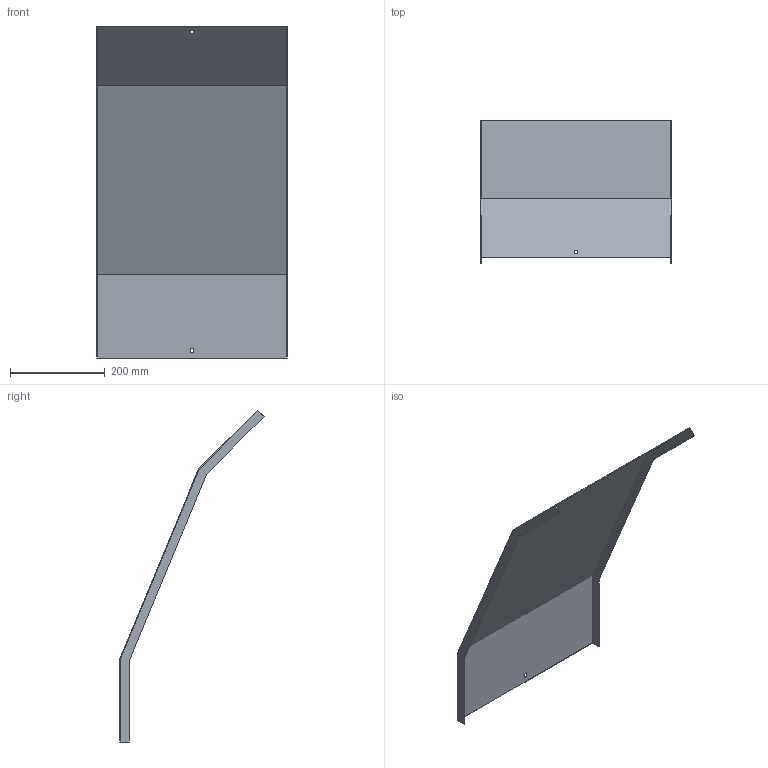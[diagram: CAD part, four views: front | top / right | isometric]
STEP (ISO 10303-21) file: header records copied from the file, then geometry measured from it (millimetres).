
FILE_DESCRIPTION (( 'STEP AP214' ), '1' );
FILE_NAME ('34N5J400.step', '2025-02-21T10:33:46', ( '' ), ( '' ), 'SwSTEP 2.0', 'SolidWorks 2023', '' );
FILE_SCHEMA (( 'AUTOMOTIVE_DESIGN' ));
Length unit declared in the file: millimetre
Products named in the file (1): 34N5J400
Bounding box: 403 x 304.65 x 701.34 mm (x, y, z)
Volume: 517691.6 mm3; surface area: 693980.3 mm2
Topology: 1 solids, 1 shells, 26 faces, 72 edges, 48 vertices
Faces by surface type: plane 26
Entity records: 847 total; most frequent: CARTESIAN_POINT 147, ORIENTED_EDGE 144, DIRECTION 126, VECTOR 72, LINE 72, EDGE_CURVE 72, VERTEX_POINT 48, EDGE_LOOP 30
